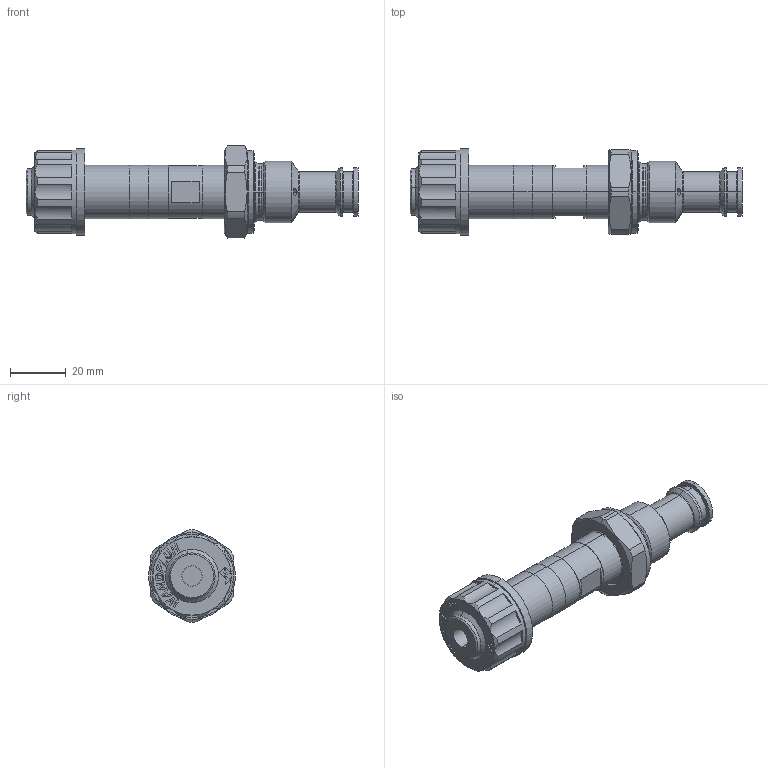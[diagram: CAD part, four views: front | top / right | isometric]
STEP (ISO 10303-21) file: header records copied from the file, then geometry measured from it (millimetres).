
FILE_DESCRIPTION (( 'STEP AP214' ), '1' );
FILE_NAME ('BSPPM22.STEP', '2014-07-16T09:53:37', ( '' ), ( '' ), 'SwSTEP 2.0', 'SolidWorks 2014', '' );
FILE_SCHEMA (( 'AUTOMOTIVE_DESIGN' ));
Length unit declared in the file: millimetre
Products named in the file (2): BSPPM22
Bounding box: 118.6 x 31 x 33 mm (x, y, z)
Volume: 41164.3 mm3; surface area: 17245.5 mm2
Topology: 4 solids, 6 shells, 377 faces, 889 edges, 548 vertices
Faces by surface type: plane 156, cylinder 98, cone 67, torus 40, bspline 16
Entity records: 16182 total; most frequent: CARTESIAN_POINT 3270, DIRECTION 1853, ORIENTED_EDGE 1762, EDGE_CURVE 881, AXIS2_PLACEMENT_3D 693, VERTEX_POINT 548, VECTOR 467, LINE 467
